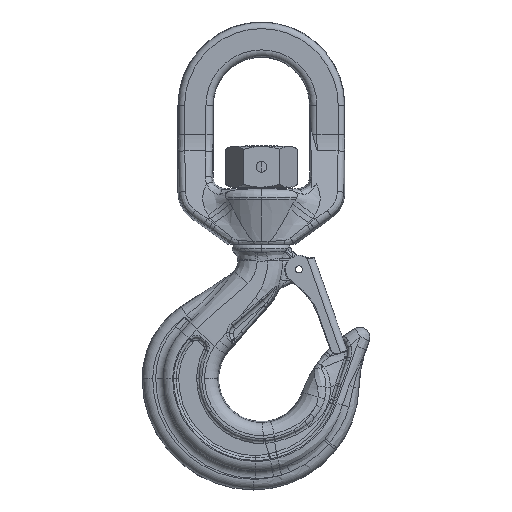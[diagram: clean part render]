
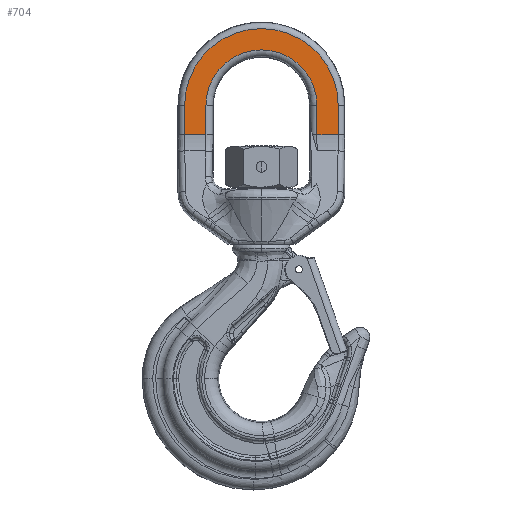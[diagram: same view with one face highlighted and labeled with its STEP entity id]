
A CAD part, top view. The second image highlights one B-rep face of the part: STEP entity #704.
In plain terms, the highlighted planar face has unit normal (0, 0, 1).
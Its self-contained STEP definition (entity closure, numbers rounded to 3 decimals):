
#704=ADVANCED_FACE('',(#2205),#2206,.T.);
#2205=FACE_OUTER_BOUND('',#25112,.T.);
#2206=PLANE('',#25113);
#25112=EDGE_LOOP('',(#31382,#31383,#31384,#31385,#31386,#31387,#31388,#31389));
#25113=AXIS2_PLACEMENT_3D('',#31390,#31391,#31392);
#31382=ORIENTED_EDGE('',*,*,#34725,.T.);
#31383=ORIENTED_EDGE('',*,*,#34726,.T.);
#31384=ORIENTED_EDGE('',*,*,#34727,.T.);
#31385=ORIENTED_EDGE('',*,*,#34728,.T.);
#31386=ORIENTED_EDGE('',*,*,#34694,.T.);
#31387=ORIENTED_EDGE('',*,*,#34729,.T.);
#31388=ORIENTED_EDGE('',*,*,#34730,.T.);
#31389=ORIENTED_EDGE('',*,*,#34731,.T.);
#31390=CARTESIAN_POINT('',(-100.0,265.5,8.75));
#31391=DIRECTION('',(0.0,0.,1.0));
#31392=DIRECTION('',(0.0,-1.0,0.));
#34694=EDGE_CURVE('',#37714,#37719,#37721,.T.);
#34725=EDGE_CURVE('',#37776,#37777,#37778,.F.);
#34726=EDGE_CURVE('',#37777,#37779,#37780,.T.);
#34727=EDGE_CURVE('',#37779,#37781,#37782,.T.);
#34728=EDGE_CURVE('',#37781,#37714,#37783,.F.);
#34729=EDGE_CURVE('',#37719,#37784,#37785,.F.);
#34730=EDGE_CURVE('',#37784,#37786,#37787,.F.);
#34731=EDGE_CURVE('',#37786,#37776,#37788,.T.);
#37714=VERTEX_POINT('',#54465);
#37719=VERTEX_POINT('',#54471);
#37721=LINE('',#54473,#54474);
#37776=VERTEX_POINT('',#54612);
#37777=VERTEX_POINT('',#54613);
#37778=LINE('',#54614,#54615);
#37779=VERTEX_POINT('',#54616);
#37780=LINE('',#54617,#54618);
#37781=VERTEX_POINT('',#54619);
#37782=CIRCLE('',#54620,56.611);
#37783=LINE('',#54621,#54622);
#37784=VERTEX_POINT('',#54623);
#37785=LINE('',#54624,#54625);
#37786=VERTEX_POINT('',#54626);
#37787=CIRCLE('',#54627,40.922);
#37788=LINE('',#54628,#54629);
#54465=CARTESIAN_POINT('',(-56.611,180.0,8.75));
#54471=CARTESIAN_POINT('',(-40.922,180.0,8.75));
#54473=CARTESIAN_POINT('',(-56.611,180.0,8.75));
#54474=VECTOR('',#59556,15.689);
#54612=CARTESIAN_POINT('',(40.922,180.0,8.75));
#54613=CARTESIAN_POINT('',(56.611,180.0,8.75));
#54614=CARTESIAN_POINT('',(56.611,180.0,8.75));
#54615=VECTOR('',#59597,15.689);
#54616=CARTESIAN_POINT('',(56.611,201.5,8.75));
#54617=CARTESIAN_POINT('',(56.611,180.0,8.75));
#54618=VECTOR('',#59598,21.5);
#54619=CARTESIAN_POINT('',(-56.611,201.5,8.75));
#54620=AXIS2_PLACEMENT_3D('',#59599,#59600,#59601);
#54621=CARTESIAN_POINT('',(-56.611,180.0,8.75));
#54622=VECTOR('',#59602,21.5);
#54623=CARTESIAN_POINT('',(-40.922,201.5,8.75));
#54624=CARTESIAN_POINT('',(-40.922,201.5,8.75));
#54625=VECTOR('',#59603,21.5);
#54626=CARTESIAN_POINT('',(40.922,201.5,8.75));
#54627=AXIS2_PLACEMENT_3D('',#59604,#59605,#59606);
#54628=CARTESIAN_POINT('',(40.922,201.5,8.75));
#54629=VECTOR('',#59607,21.5);
#59556=DIRECTION('',(1.0,0.0,0.0));
#59597=DIRECTION('',(-1.0,0.0,0.0));
#59598=DIRECTION('',(0.0,1.0,0.));
#59599=CARTESIAN_POINT('',(0.0,201.5,8.75));
#59600=DIRECTION('',(0.0,0.,1.0));
#59601=DIRECTION('',(0.0,-1.0,0.));
#59602=DIRECTION('',(0.0,1.0,0.));
#59603=DIRECTION('',(0.0,-1.0,0.));
#59604=CARTESIAN_POINT('',(0.0,201.5,8.75));
#59605=DIRECTION('',(0.0,0.,1.0));
#59606=DIRECTION('',(0.0,-1.0,0.));
#59607=DIRECTION('',(0.0,-1.0,0.));
